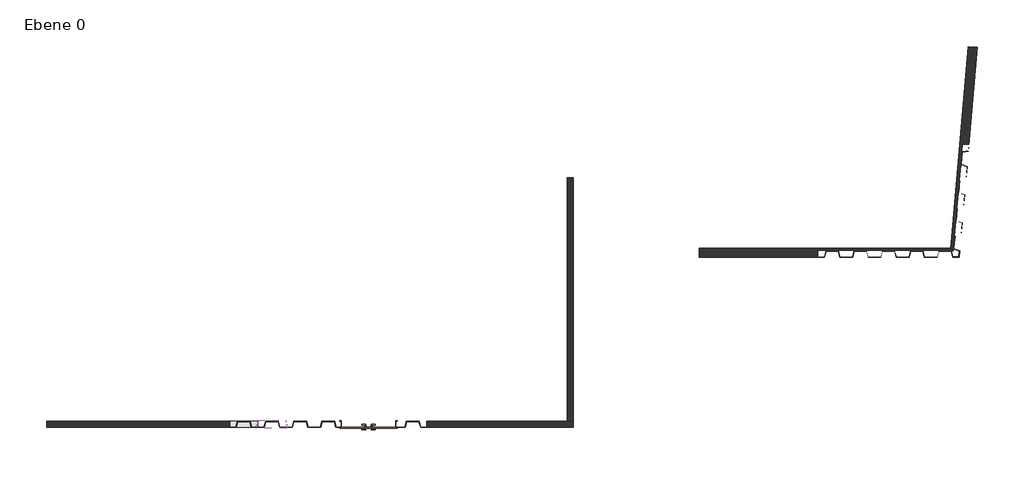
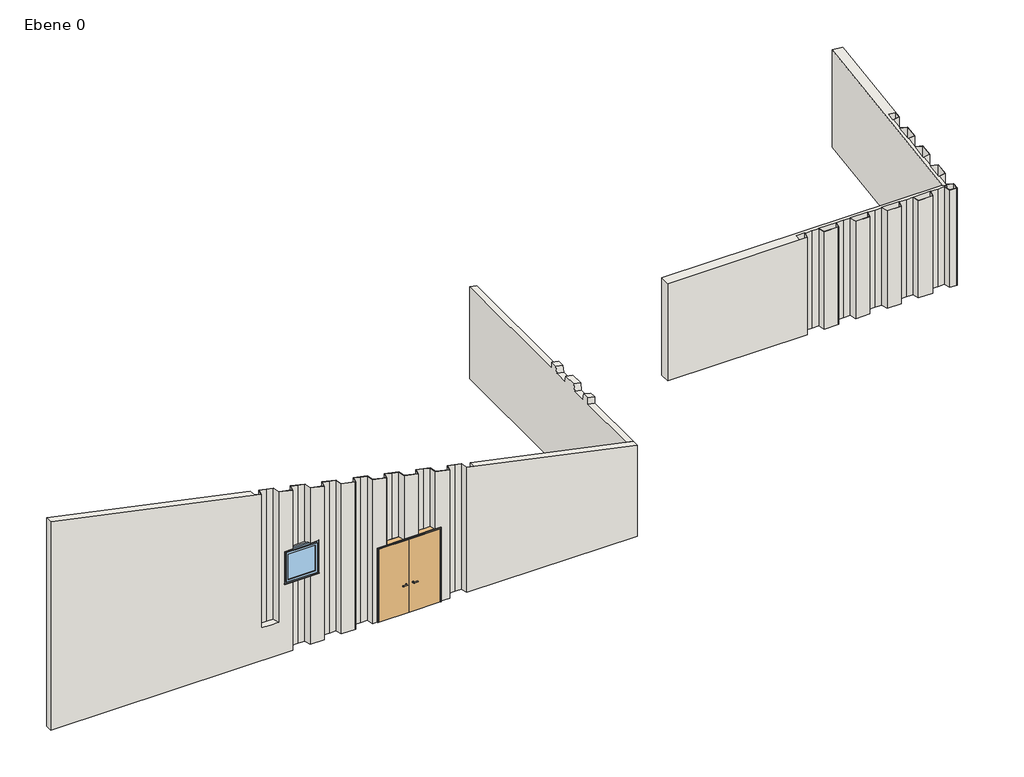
# One storey: 4 walls, 1 door, 1 window.
"""IFC4 building model written with IfcOpenShell, lengths in millimetres."""

from ifc_helpers import new_model, si_unit, origin, origin_with_axes, place, context, project, spatial, polyline, outline, extrude, faceted_brep, transform, mapped, element, save
from components import door_1b82a2a8, window_1_01_x_1_01_4e34e6c7

model = new_model("IFC4")

# Units and contexts
model_context = context("Model", 3, world=origin())
ifc_project = project(units=[si_unit("LENGTHUNIT", "METRE", prefix="MILLI")], contexts=[model_context])

# Site, building, storey
site = spatial("IfcSite", under=ifc_project)
building = spatial("IfcBuilding", under=site)
storey = spatial("IfcBuildingStorey", under=building, Name="Ebene 0", Elevation=0.0)

# Door
placement = place(None, origin())
door_shape = door_1b82a2a8(model_context)
element("IfcDoor", 1, ObjectType="Drehflügel 2-flg - Variabel : Drehflügel 2-flg - Variabel", at=placement, inside=storey, context=model_context, shape_type="MappedRepresentation", body=[
    mapped(door_shape, transform((-1879.1504506, -162.1011149, 0.0), x_axis=(-1.0, 0.0, 0.0), y_axis=(0.0, -1.0, 0.0), z_axis=(0.0, 0.0, 1.0))),
])

# Walls
element("IfcWall", 2, ObjectType="Trapez mit Dämmung 200+80", at=placement, inside=storey, context=model_context, shape_type="SweptSolid", body=[
    extrude(outline(polyline([(8856.941541, 5543.2091281), (17022.9281068, 5543.2091281), (17107.6887404, 5450.7091281), (17040.3349459, 5450.7091281), (17090.3349459, 5260.7091281), (17281.7916635, 5260.7091281), (17290.9549752, 5250.7091281), (17082.6260603, 5250.7091281), (17032.6260603, 5440.7091281), (16832.6260603, 5440.7091281), (16632.6260603, 5440.7091281), (16582.6260603, 5250.7091281), (16167.208289, 5250.7091281), (16117.208289, 5440.7091281), (15917.208289, 5440.7091281), (15717.208289, 5440.7091281), (15667.208289, 5250.7091281), (15251.7905178, 5250.7091281), (15201.7905178, 5440.7091281), (15001.7905178, 5440.7091281), (14801.7905178, 5440.7091281), (14751.7905178, 5250.7091281), (14336.3727465, 5250.7091281), (14286.3727465, 5440.7091281), (14086.3727465, 5440.7091281), (13886.3727465, 5440.7091281), (13836.3727465, 5250.7091281), (13420.9549752, 5250.7091281), (13370.9549752, 5440.7091281), (13170.9549752, 5440.7091281), (12970.9549752, 5440.7091281), (12920.9549752, 5250.7091281), (8856.941541, 5250.7091281), (8856.941541, 5543.2091281)]), holes=[polyline([(13378.6638609, 5450.7091281), (13428.6638609, 5260.7091281), (13828.6638609, 5260.7091281), (13878.6638609, 5450.7091281), (13378.6638609, 5450.7091281)]), polyline([(12713.2460896, 5260.7091281), (12913.2460896, 5260.7091281), (12963.2460896, 5450.7091281), (12713.2460896, 5450.7091281), (12713.2460896, 5260.7091281)]), polyline([(14294.0816321, 5450.7091281), (14344.0816321, 5260.7091281), (14744.0816321, 5260.7091281), (14794.0816321, 5450.7091281), (14294.0816321, 5450.7091281)]), polyline([(15209.4994034, 5450.7091281), (15259.4994034, 5260.7091281), (15659.4994034, 5260.7091281), (15709.4994034, 5450.7091281), (15209.4994034, 5450.7091281)]), polyline([(16624.9171747, 5450.7091281), (16124.9171747, 5450.7091281), (16174.9171747, 5260.7091281), (16574.9171747, 5260.7091281), (16624.9171747, 5450.7091281)])]), origin_with_axes(), (0.0, 0.0, 1.0), 3000.0),
])
element("IfcWall", 3, ObjectType="Trapez mit Dämmung 200+80", at=placement, inside=storey, context=model_context, shape_type="SweptSolid", body=[
    extrude(outline(polyline([(17022.9281068, 5543.2091281), (17595.1915428, 12084.2101327), (17886.578492, 12058.7170779), (17591.6655363, 8687.8465694), (17398.0307566, 8654.5964257), (17380.599608, 8455.357486), (17363.1684595, 8256.1185464), (17548.087665, 8189.7492204), (17511.8816206, 7775.9122392), (17318.2468408, 7742.6620954), (17300.8156922, 7543.4231558), (17283.3845437, 7344.1842161), (17468.3037492, 7277.8148901), (17432.0977048, 6863.9779089), (17238.462925, 6830.7277651), (17221.0317765, 6631.4888255), (17203.6006279, 6432.2498859), (17388.5198334, 6365.8805598), (17352.313789, 5952.0435786), (17158.6790092, 5918.7934348), (17141.2478607, 5719.5544952), (17123.8167121, 5520.3155556), (17308.7359176, 5453.9462296), (17290.9549752, 5250.7091281), (17281.7916635, 5260.7091281), (17298.102097, 5447.138236), (17113.1828915, 5513.507562), (17107.6887404, 5450.7091281), (17022.9281068, 5543.2091281)]), holes=[polyline([(17388.7406832, 8663.1475341), (17582.375463, 8696.3976779), (17599.8066116, 8895.6366175), (17410.5296189, 8912.1962086), (17388.7406832, 8663.1475341)]), polyline([(17537.4538443, 8182.9412268), (17352.5346388, 8249.3105529), (17308.9567675, 7751.2132038), (17502.5915472, 7784.4633476), (17537.4538443, 8182.9412268)]), polyline([(17457.6699285, 7271.0068966), (17272.750723, 7337.3762226), (17229.1728517, 6839.2788735), (17422.8076314, 6872.5290173), (17457.6699285, 7271.0068966)]), polyline([(17343.0237157, 5960.594687), (17377.8860128, 6359.0725663), (17192.9668073, 6425.4418923), (17149.3889359, 5927.3445433), (17343.0237157, 5960.594687)])]), origin_with_axes(), (0.0, 0.0, 1.0), 3000.0),
])
element("IfcWall", 4, ObjectType="STB 20.0", at=placement, inside=storey, context=model_context, shape_type="Brep", body=[
    faceted_brep([(-12328.7326793, -276.535729, 6430.2490856), (-12328.7326793, -276.535729, 0.0), (-5263.314908, -276.535729, 0.0), (-5263.314908, -276.535729, 2112.6447196), (-5518.7326793, -276.535729, 2112.6447196), (-5518.7326793, -276.535729, 3122.6447196), (-5263.314908, -276.535729, 3122.6447196), (-5263.314908, -276.535729, 4928.4481774), (-5678.7326793, -276.535729, 5016.7479505), (-5678.7326793, -276.535729, 1000.0), (-5928.7326793, -276.535729, 1000.0), (-6178.7326793, -276.535729, 1000.0), (-6178.7326793, -276.535729, 5123.0262313), (4771.2673207, -276.535729, 0.0), (4771.2673207, -276.535729, 2795.531881), (-190.4037644, -276.535729, 3850.167627), (-190.4037644, -276.535729, 0.0), (-4348.7326793, -276.535729, 0.0), (-4348.7326793, -276.535729, 4734.0477235), (-4763.314908, -276.535729, 4822.1698965), (-4763.314908, -276.535729, 3122.6447196), (-4508.7326793, -276.535729, 3122.6447196), (-4508.7326793, -276.535729, 2112.6447196), (-4763.314908, -276.535729, 2112.6447196), (-4763.314908, -276.535729, 0.0), (-3848.7326793, -276.535729, 4627.7694426), (-3848.7326793, -276.535729, 0.0), (-3434.1504506, -276.535729, 0.0), (-3434.1504506, -276.535729, 4539.6472696), (-2934.1504506, -276.535729, 4433.3689887), (-2934.1504506, -276.535729, 0.0), (-2784.1504506, -276.535729, 0.0), (-2784.1504506, -276.535729, 2260.0), (-2519.5682218, -276.535729, 2260.0), (-2519.5682218, -276.535729, 4345.2468156), (-1604.9859931, -276.535729, 4150.8463617), (-2019.5682218, -276.535729, 4238.9685348), (-2019.5682218, -276.535729, 2260.0), (-1604.9859931, -276.535729, 2260.0), (-690.4037644, -276.535729, 3956.4459078), (-1104.9859931, -276.535729, 4044.5680809), (-1104.9859931, -276.535729, 2260.0), (-974.1504506, -276.535729, 2260.0), (-974.1504506, -276.535729, 0.0), (-690.4037644, -276.535729, 0.0), (-12328.7326793, -76.535729, 0.0), (-12328.7326793, -76.535729, 6430.2490856), (-6386.4415649, -76.535729, 5167.1761179), (-6386.4415649, -76.535729, 1000.0), (-6136.4415649, -76.535729, 1000.0), (-6136.4415649, -76.535729, 5114.0369775), (-5721.0237937, -76.535729, 5025.7372043), (-5721.0237937, -76.535729, 1000.0), (-5471.0237937, -76.535729, 1000.0), (-5471.0237937, -76.535729, 0.0), (4771.2673207, -76.535729, 2795.531881), (4771.2673207, -76.535729, 0.0), (4571.2673207, -76.535729, 0.0), (17.3051213, -76.535729, 0.0), (17.3051213, -76.535729, 3806.0177404), (4571.2673207, -76.535729, 2838.0431934), (-3891.0237937, -76.535729, 4636.7586965), (-3891.0237937, -76.535729, 0.0), (-4306.4415649, -76.535729, 0.0), (-4306.4415649, -76.535729, 4725.0584696), (-5221.0237937, -76.535729, 4919.4589235), (-4805.6060224, -76.535729, 4831.1591504), (-4805.6060224, -76.535729, 3072.6447196), (-5221.0237937, -76.535729, 3072.6447196), (-3391.8593362, -76.535729, 4530.6580157), (-2976.4415649, -76.535729, 4442.3582426), (-2976.4415649, -76.535729, 0.0), (-3391.8593362, -76.535729, 0.0), (-2477.2771075, -76.535729, 4336.2575618), (-2061.8593362, -76.535729, 4247.9577887), (-2061.8593362, -76.535729, 2260.0), (-2477.2771075, -76.535729, 2260.0), (-1562.6948787, -76.535729, 4141.8571079), (-1147.2771075, -76.535729, 4053.5573348), (-1147.2771075, -76.535729, 2260.0), (-1562.6948787, -76.535729, 2260.0), (-648.11265, -76.535729, 3947.456654), (-232.6948787, -76.535729, 3859.1568809), (-232.6948787, -76.535729, 0.0), (-648.11265, -76.535729, 0.0), (-4805.6060224, -76.535729, 0.0), (-5221.0237937, -76.535729, 0.0), (-5221.0237937, -76.535729, 2112.6447196), (-4805.6060224, -76.535729, 2112.6447196), (-5471.0237937, -266.535729, 0.0), (-5271.0237937, -266.535729, 0.0), (-4755.6060224, -266.535729, 0.0), (-4356.4415649, -266.535729, 0.0), (-3841.0237937, -266.535729, 0.0), (-3441.8593362, -266.535729, 0.0), (-2926.4415649, -266.535729, 0.0), (-2784.1504506, -266.535729, 0.0), (-2984.1504506, -86.535729, 0.0), (-3184.1504506, -86.535729, 0.0), (-3384.1504506, -86.535729, 0.0), (-3898.7326793, -86.535729, 0.0), (-4098.7326793, -86.535729, 0.0), (-4298.7326793, -86.535729, 0.0), (-4813.314908, -86.535729, 0.0), (-5013.314908, -86.535729, 0.0), (-5213.314908, -86.535729, 0.0), (-240.4037644, -86.535729, 0.0), (-440.4037644, -86.535729, 0.0), (-640.4037644, -86.535729, 0.0), (-974.1504506, -266.535729, 0.0), (-698.11265, -266.535729, 0.0), (-182.6948787, -266.535729, 0.0), (17.3051213, -266.535729, 0.0), (-5671.0237937, -266.535729, 1000.0), (-5471.0237937, -266.535729, 1000.0), (-5728.7326793, -86.535729, 1000.0), (-5928.7326793, -86.535729, 1000.0), (-6128.7326793, -86.535729, 1000.0), (-6186.4415649, -266.535729, 1000.0), (-6386.4415649, -266.535729, 1000.0), (-6128.7326793, -86.535729, 5112.3984032), (-5728.7326793, -86.535729, 5027.3757786), (-5671.0237937, -266.535729, 5015.1093763), (-5271.0237937, -266.535729, 4930.0867516), (-5271.0237937, -266.535729, 3122.6447196), (-5518.7326793, -266.535729, 3122.6447196), (-5518.7326793, -266.535729, 2112.6447196), (-5271.0237937, -266.535729, 2112.6447196), (-5928.7326793, -86.535729, 5069.8870909), (-6386.4415649, -266.535729, 5167.1761179), (-6186.4415649, -266.535729, 5124.6648055), (-5213.314908, -86.535729, 2112.6447196), (-5213.314908, -86.535729, 4917.8203493), (-5242.2622765, -196.535729, 3122.6447196), (-5242.2622765, -196.535729, 3072.6447196), (-5213.314908, -86.535729, 3072.6447196), (-4813.314908, -86.535729, 2112.6447196), (-4813.314908, -86.535729, 4832.7977246), (-4813.314908, -86.535729, 3072.6447196), (-4784.3675396, -196.535729, 3072.6447196), (-4784.3675396, -196.535729, 3122.6447196), (-4755.6060224, -266.535729, 2112.6447196), (-4755.6060224, -266.535729, 4820.5313223), (-4755.6060224, -266.535729, 3122.6447196), (-4774.027075, -196.535729, 3122.6447196), (-4774.027075, -196.535729, 3072.6447196), (-4356.4415649, -266.535729, 4735.6862977), (-4508.7326793, -266.535729, 2112.6447196), (-4508.7326793, -266.535729, 3122.6447196), (-5013.314908, -86.535729, 2112.6447196), (-5013.314908, -86.535729, 4875.3090369), (-5013.314908, -86.535729, 3072.6447196), (-5252.602741, -196.535729, 3072.6447196), (-5252.602741, -196.535729, 3122.6447196), (-4298.7326793, -86.535729, 4723.4198954), (-3898.7326793, -86.535729, 4638.3972707), (-3841.0237937, -266.535729, 4626.1308684), (-3441.8593362, -266.535729, 4541.2858438), (-4098.7326793, -86.535729, 4680.908583), (17.3051213, -266.535729, 3806.0177404), (-182.6948787, -266.535729, 3848.5290528), (-698.11265, -266.535729, 3958.0844821), (-1097.2771075, -266.535729, 4042.9295067), (-1612.6948787, -266.535729, 4152.484936), (-2011.8593362, -266.535729, 4237.3299606), (-2527.2771075, -266.535729, 4346.8853899), (-2926.4415649, -266.535729, 4431.7304145), (-3384.1504506, -86.535729, 4529.0194415), (-3184.1504506, -86.535729, 4486.5081291), (-2984.1504506, -86.535729, 4443.9968168), (-2469.5682218, -86.535729, 4334.6189876), (-2269.5682218, -86.535729, 4292.1076752), (-2069.5682218, -86.535729, 4249.5963629), (-1554.9859931, -86.535729, 4140.2185337), (-1354.9859931, -86.535729, 4097.7072213), (-1154.9859931, -86.535729, 4055.195909), (-640.4037644, -86.535729, 3945.8180798), (-440.4037644, -86.535729, 3903.3067674), (-240.4037644, -86.535729, 3860.7954551), (-2527.2771075, -266.535729, 2260.0), (-2784.1504506, -266.535729, 2260.0), (-2469.5682218, -86.535729, 2260.0), (-2069.5682218, -86.535729, 2260.0), (-2011.8593362, -266.535729, 2260.0), (-1612.6948787, -266.535729, 2260.0), (-2269.5682218, -86.535729, 2260.0), (-1554.9859931, -86.535729, 2260.0), (-1154.9859931, -86.535729, 2260.0), (-1097.2771075, -266.535729, 2260.0), (-974.1504506, -266.535729, 2260.0), (-1354.9859931, -86.535729, 2260.0)], [[[0, 1, 2, 3, 4, 5, 6, 7, 8, 9, 10, 11, 12]], [[13, 14, 15, 16]], [[17, 18, 19, 20, 21, 22, 23, 24]], [[25, 26, 27, 28]], [[29, 30, 31, 32, 33, 34]], [[35, 36, 37, 38]], [[39, 40, 41, 42, 43, 44]], [[45, 46, 47, 48, 49, 50, 51, 52, 53, 54]], [[55, 56, 57, 58, 59, 60]], [[61, 62, 63, 64]], [[65, 66, 67, 68]], [[69, 70, 71, 72]], [[73, 74, 75, 76]], [[77, 78, 79, 80]], [[81, 82, 83, 84]], [[85, 86, 87, 88]], [[1, 45, 54, 89, 90, 86, 85, 91, 92, 63, 62, 93, 94, 72, 71, 95, 96, 31, 30, 97, 98, 99, 27, 26, 100, 101, 102, 17, 24, 103, 104, 105, 2]], [[56, 13, 16, 106, 107, 108, 44, 43, 109, 110, 84, 83, 111, 112, 58, 57]], [[1, 0, 46, 45]], [[14, 13, 56, 55]], [[113, 114, 53, 52]], [[115, 116, 117, 11, 10, 9]], [[118, 49, 48, 119]], [[11, 117, 120, 12]], [[115, 9, 8, 121]], [[113, 52, 51, 122]], [[114, 113, 122, 123, 124, 125, 126, 127, 90, 89]], [[117, 116, 128, 120]], [[116, 115, 121, 128]], [[118, 119, 129, 130]], [[119, 48, 47, 129]], [[49, 118, 130, 50]], [[2, 105, 131, 3]], [[132, 7, 6, 133, 134, 135]], [[103, 24, 23, 136]], [[19, 137, 138, 139, 140, 20]], [[91, 85, 88, 141]], [[66, 142, 143, 144, 145, 67]], [[146, 92, 91, 141, 147, 148, 143, 142]], [[105, 104, 149, 131]], [[150, 132, 135, 151]], [[104, 103, 136, 149]], [[137, 150, 151, 138]], [[114, 89, 54, 53]], [[86, 90, 127, 87]], [[123, 65, 68, 152, 153, 124]], [[102, 154, 18, 17]], [[155, 100, 26, 25]], [[156, 93, 62, 61]], [[93, 156, 157, 94]], [[154, 102, 101, 158]], [[100, 155, 158, 101]], [[92, 146, 64, 63]], [[14, 55, 60, 59, 159, 160, 82, 81, 161, 162, 78, 77, 163, 164, 74, 73, 165, 166, 70, 69, 157, 156, 61, 64, 146, 142, 66, 65, 123, 122, 51, 50, 130, 129, 47, 46, 0, 12, 120, 128, 121, 8, 7, 132, 150, 137, 19, 18, 154, 158, 155, 25, 28, 167, 168, 169, 29, 34, 170, 171, 172, 36, 35, 173, 174, 175, 40, 39, 176, 177, 178, 15]], [[99, 167, 28, 27]], [[169, 97, 30, 29]], [[166, 95, 71, 70]], [[95, 166, 165, 179, 180, 96]], [[167, 99, 98, 168]], [[97, 169, 168, 98]], [[94, 157, 69, 72]], [[170, 34, 33, 181]], [[36, 172, 182, 37]], [[74, 164, 183, 75]], [[164, 163, 184, 183]], [[171, 170, 181, 185]], [[172, 171, 185, 182]], [[165, 73, 76, 179]], [[173, 35, 38, 186]], [[40, 175, 187, 41]], [[78, 162, 188, 79]], [[161, 110, 109, 189, 188, 162]], [[174, 173, 186, 190]], [[175, 174, 190, 187]], [[163, 77, 80, 184]], [[108, 176, 39, 44]], [[178, 106, 16, 15]], [[160, 111, 83, 82]], [[111, 160, 159, 112]], [[176, 108, 107, 177]], [[106, 178, 177, 107]], [[112, 159, 59, 58]], [[110, 161, 81, 84]], [[180, 32, 31, 96]], [[32, 180, 179, 76, 75, 183, 184, 80, 79, 188, 189, 42, 41, 187, 190, 186, 38, 37, 182, 185, 181, 33]], [[42, 189, 109, 43]], [[145, 139, 138, 151, 135, 134, 152, 68, 67]], [[126, 4, 3, 131, 149, 136, 23, 22, 147, 141, 88, 87, 127]], [[5, 125, 124, 153, 133, 6]], [[140, 144, 143, 148, 21, 20]], [[147, 22, 21, 148]], [[139, 145, 144, 140]], [[152, 134, 133, 153]], [[4, 126, 125, 5]]]),
])
element("IfcWall", 5, ObjectType="STB 20.0", at=placement, inside=storey, context=model_context, shape_type="Brep", body=[
    faceted_brep([(4771.2673207, -76.535729, 0.0), (4771.2673207, 7823.464271, 0.0), (4771.2673207, 7823.464271, 2795.531881), (4771.2673207, 3681.1731566, 2795.531881), (4771.2673207, 3681.1731566, 2989.7765941), (4771.2673207, 3481.1731566, 2989.7765941), (4771.2673207, 3431.1731566, 2795.531881), (4771.2673207, 3015.7553854, 2795.531881), (4771.2673207, 2965.7553854, 2989.7765941), (4771.2673207, 2578.464271, 2989.7765941), (4771.2673207, 2528.464271, 2795.531881), (4771.2673207, 2113.0464997, 2795.531881), (4771.2673207, 2063.0464997, 2989.7765941), (4771.2673207, 1863.0464997, 2989.7765941), (4771.2673207, 1863.0464997, 2795.531881), (4771.2673207, -76.535729, 2795.531881), (4571.2673207, -76.535729, 0.0), (4571.2673207, -76.535729, 2838.0431934), (4571.2673207, 1863.0464997, 2838.0431934), (4571.2673207, 1863.0464997, 3032.2879064), (4571.2673207, 2063.0464997, 3032.2879064), (4571.2673207, 2113.0464997, 2838.0431934), (4571.2673207, 2528.464271, 2838.0431934), (4571.2673207, 2578.464271, 3032.2879064), (4571.2673207, 2965.7553854, 3032.2879064), (4571.2673207, 3015.7553854, 2838.0431934), (4571.2673207, 3431.1731566, 2838.0431934), (4571.2673207, 3481.1731566, 3032.2879064), (4571.2673207, 3681.1731566, 3032.2879064), (4571.2673207, 3681.1731566, 2838.0431934), (4571.2673207, 7823.464271, 2838.0431934), (4571.2673207, 7823.464271, 0.0)], [[[0, 1, 2, 3, 4, 5, 6, 7, 8, 9, 10, 11, 12, 13, 14, 15]], [[16, 17, 18, 19, 20, 21, 22, 23, 24, 25, 26, 27, 28, 29, 30, 31]], [[1, 0, 16, 31]], [[2, 1, 31, 30]], [[0, 15, 17, 16]], [[3, 29, 28, 4]], [[18, 14, 13, 19]], [[3, 2, 30, 29]], [[7, 6, 26, 25]], [[11, 10, 22, 21]], [[15, 14, 18, 17]], [[13, 12, 20, 19]], [[12, 11, 21, 20]], [[10, 9, 23, 22]], [[9, 8, 24, 23]], [[8, 7, 25, 24]], [[6, 5, 27, 26]], [[5, 4, 28, 27]]]),
])

# Window
window_1_01_x_1_01_shape = window_1_01_x_1_01_4e34e6c7(model_context)
element("IfcWindow", 6, ObjectType="Fenster 1-flg - mit Anschlag : 1.01 x 1.01", at=placement, inside=storey, context=model_context, shape_type="MappedRepresentation", body=[
    mapped(window_1_01_x_1_01_shape, transform((-4993.7326793, -176.535729, 1112.6447196), x_axis=(1.0, 0.0, 0.0), y_axis=(0.0, 1.0, 0.0), z_axis=(0.0, 0.0, 1.0))),
])

save(model, "model.ifc")
